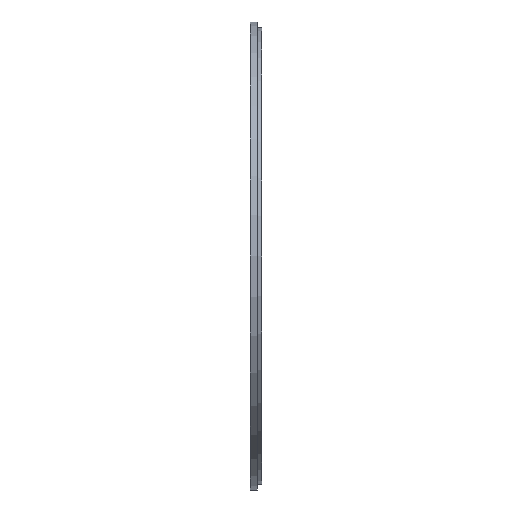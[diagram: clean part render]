
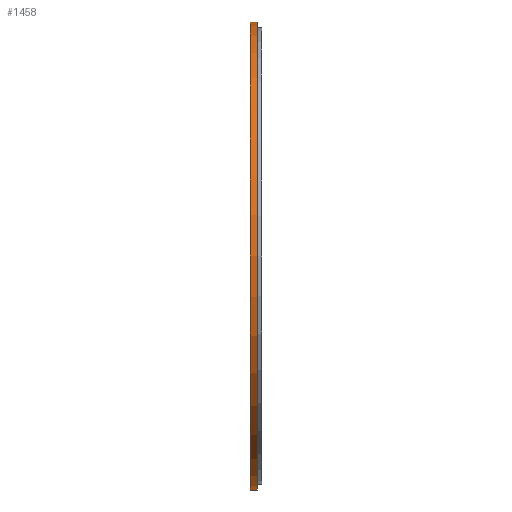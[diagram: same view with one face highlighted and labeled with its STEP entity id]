
A CAD part, front view. The second image highlights one B-rep face of the part: STEP entity #1458.
In plain terms, the highlighted cylindrical face has radius 40 mm (diameter 80 mm), a partial arc.
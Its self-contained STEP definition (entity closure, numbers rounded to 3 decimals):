
#43 = EDGE_CURVE ( 'NONE', #1323, #974, #1603, .T. ) ;
#94 = EDGE_CURVE ( 'NONE', #422, #203, #1227, .T. ) ;
#194 = CARTESIAN_POINT ( 'NONE',  ( 0., 0., -40. ) ) ;
#203 = VERTEX_POINT ( 'NONE', #631 ) ;
#204 = DIRECTION ( 'NONE',  ( -1., 0., 0. ) ) ;
#223 = VECTOR ( 'NONE', #1246, 1000. ) ;
#251 = CARTESIAN_POINT ( 'NONE',  ( 1.2, 0., -40. ) ) ;
#310 = CARTESIAN_POINT ( 'NONE',  ( 0., 0., -40. ) ) ;
#333 = DIRECTION ( 'NONE',  ( -1., 0., 0. ) ) ;
#356 = AXIS2_PLACEMENT_3D ( 'NONE', #895, #386, #1288 ) ;
#386 = DIRECTION ( 'NONE',  ( -1., 0., 0. ) ) ;
#391 = CIRCLE ( 'NONE', #1171, 40. ) ;
#422 = VERTEX_POINT ( 'NONE', #1206 ) ;
#631 = CARTESIAN_POINT ( 'NONE',  ( 0., 0., 40. ) ) ;
#639 = EDGE_CURVE ( 'NONE', #1323, #422, #961, .T. ) ;
#650 = CYLINDRICAL_SURFACE ( 'NONE', #356, 40. ) ;
#651 = DIRECTION ( 'NONE',  ( -1., 0., 0. ) ) ;
#661 = AXIS2_PLACEMENT_3D ( 'NONE', #1632, #204, #1264 ) ;
#666 = ORIENTED_EDGE ( 'NONE', *, *, #43, .F. ) ;
#667 = ORIENTED_EDGE ( 'NONE', *, *, #1448, .F. ) ;
#758 = DIRECTION ( 'NONE',  ( 0., 0., 1. ) ) ;
#895 = CARTESIAN_POINT ( 'NONE',  ( 0., 0., 0. ) ) ;
#961 = CIRCLE ( 'NONE', #661, 40. ) ;
#974 = VERTEX_POINT ( 'NONE', #310 ) ;
#1031 = CARTESIAN_POINT ( 'NONE',  ( 0., 0., 0. ) ) ;
#1044 = VECTOR ( 'NONE', #333, 1000. ) ;
#1115 = CARTESIAN_POINT ( 'NONE',  ( 0., 0., 40. ) ) ;
#1145 = ORIENTED_EDGE ( 'NONE', *, *, #94, .T. ) ;
#1171 = AXIS2_PLACEMENT_3D ( 'NONE', #1031, #651, #758 ) ;
#1206 = CARTESIAN_POINT ( 'NONE',  ( 1.2, 0., 40. ) ) ;
#1227 = LINE ( 'NONE', #1115, #1044 ) ;
#1246 = DIRECTION ( 'NONE',  ( -1., 0., 0. ) ) ;
#1264 = DIRECTION ( 'NONE',  ( 0., 0., 1. ) ) ;
#1276 = FACE_OUTER_BOUND ( 'NONE', #1510, .T. ) ;
#1288 = DIRECTION ( 'NONE',  ( 0., 0., 1. ) ) ;
#1323 = VERTEX_POINT ( 'NONE', #251 ) ;
#1328 = ORIENTED_EDGE ( 'NONE', *, *, #639, .T. ) ;
#1448 = EDGE_CURVE ( 'NONE', #974, #203, #391, .T. ) ;
#1458 = ADVANCED_FACE ( 'NONE', ( #1276 ), #650, .T. ) ;
#1510 = EDGE_LOOP ( 'NONE', ( #666, #1328, #1145, #667 ) ) ;
#1603 = LINE ( 'NONE', #194, #223 ) ;
#1632 = CARTESIAN_POINT ( 'NONE',  ( 1.2, 0., 0. ) ) ;
